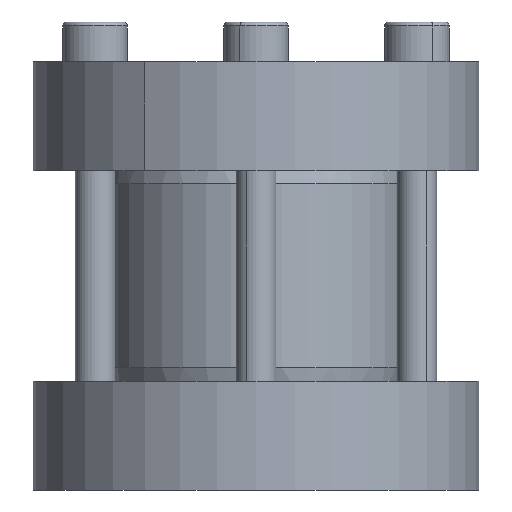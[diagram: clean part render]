
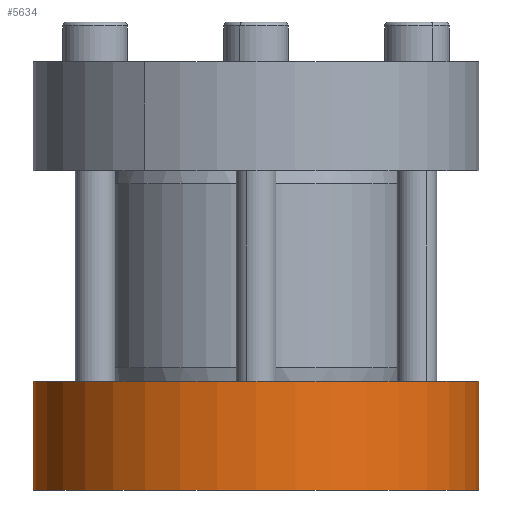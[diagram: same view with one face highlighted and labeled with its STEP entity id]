
A CAD part, front view. The second image highlights one B-rep face of the part: STEP entity #5634.
In plain terms, the highlighted cylindrical face has radius 45 mm (diameter 90 mm), a partial arc.
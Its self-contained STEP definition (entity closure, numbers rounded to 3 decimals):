
#35 = VERTEX_POINT ( 'NONE', #1598 ) ;
#176 = ORIENTED_EDGE ( 'NONE', *, *, #3182, .F. ) ;
#201 = VERTEX_POINT ( 'NONE', #4732 ) ;
#550 = AXIS2_PLACEMENT_3D ( 'NONE', #3583, #8664, #4302 ) ;
#836 = VERTEX_POINT ( 'NONE', #1939 ) ;
#884 = VECTOR ( 'NONE', #7416, 1000. ) ;
#1082 = VECTOR ( 'NONE', #7353, 1000. ) ;
#1598 = CARTESIAN_POINT ( 'NONE',  ( 45., 0., 22. ) ) ;
#1813 = FACE_OUTER_BOUND ( 'NONE', #5709, .T. ) ;
#1939 = CARTESIAN_POINT ( 'NONE',  ( -45., 0., 0. ) ) ;
#2347 = EDGE_CURVE ( 'NONE', #201, #35, #7543, .T. ) ;
#2517 = VERTEX_POINT ( 'NONE', #8157 ) ;
#2812 = CARTESIAN_POINT ( 'NONE',  ( 0., 0., 0. ) ) ;
#2964 = DIRECTION ( 'NONE',  ( -1., 0., 0. ) ) ;
#2996 = CARTESIAN_POINT ( 'NONE',  ( -45., 0., 22. ) ) ;
#3182 = EDGE_CURVE ( 'NONE', #35, #2517, #6633, .T. ) ;
#3511 = DIRECTION ( 'NONE',  ( 1., 0., 0. ) ) ;
#3542 = AXIS2_PLACEMENT_3D ( 'NONE', #2812, #7874, #3511 ) ;
#3583 = CARTESIAN_POINT ( 'NONE',  ( 0., 0., 22. ) ) ;
#3617 = CARTESIAN_POINT ( 'NONE',  ( 0., 0., 22. ) ) ;
#4278 = EDGE_CURVE ( 'NONE', #201, #836, #7064, .T. ) ;
#4302 = DIRECTION ( 'NONE',  ( 1., 0., 0. ) ) ;
#4732 = CARTESIAN_POINT ( 'NONE',  ( -45., 0., 22. ) ) ;
#4739 = CYLINDRICAL_SURFACE ( 'NONE', #5305, 45. ) ;
#5305 = AXIS2_PLACEMENT_3D ( 'NONE', #3617, #5807, #2964 ) ;
#5509 = EDGE_CURVE ( 'NONE', #836, #2517, #7257, .T. ) ;
#5634 = ADVANCED_FACE ( 'NONE', ( #1813 ), #4739, .T. ) ;
#5664 = ORIENTED_EDGE ( 'NONE', *, *, #5509, .T. ) ;
#5709 = EDGE_LOOP ( 'NONE', ( #176, #6763, #6071, #5664 ) ) ;
#5807 = DIRECTION ( 'NONE',  ( 0., 0., -1. ) ) ;
#6071 = ORIENTED_EDGE ( 'NONE', *, *, #4278, .T. ) ;
#6633 = LINE ( 'NONE', #6729, #884 ) ;
#6729 = CARTESIAN_POINT ( 'NONE',  ( 45., 0., 22. ) ) ;
#6763 = ORIENTED_EDGE ( 'NONE', *, *, #2347, .F. ) ;
#7064 = LINE ( 'NONE', #2996, #1082 ) ;
#7257 = CIRCLE ( 'NONE', #3542, 45. ) ;
#7353 = DIRECTION ( 'NONE',  ( 0., 0., -1. ) ) ;
#7416 = DIRECTION ( 'NONE',  ( 0., 0., -1. ) ) ;
#7543 = CIRCLE ( 'NONE', #550, 45. ) ;
#7874 = DIRECTION ( 'NONE',  ( 0., 0., 1. ) ) ;
#8157 = CARTESIAN_POINT ( 'NONE',  ( 45., 0., 0. ) ) ;
#8664 = DIRECTION ( 'NONE',  ( 0., 0., 1. ) ) ;
